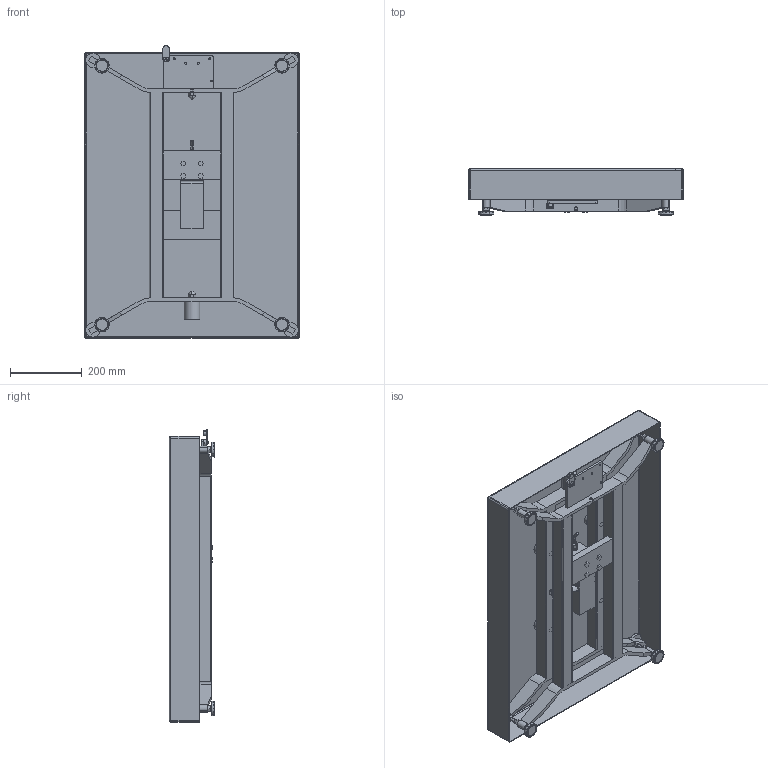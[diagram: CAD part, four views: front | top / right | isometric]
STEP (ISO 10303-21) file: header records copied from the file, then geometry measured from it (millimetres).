
FILE_DESCRIPTION((''),'2;1');
FILE_NAME('PLATFORM_PBA4XX-CC_NO_HYGIENIC','2022-03-18T09:44:32',('fu-34'),(''),'CREO PARAMETRIC BY PTC INC, 2018260','CREO PARAMETRIC BY PTC INC, 2018260','');
FILE_SCHEMA(('CONFIG_CONTROL_DESIGN','SHAPE_APPEARANCE_LAYERS_GROUPS'));
Products named in the file (1): PLATFORM_PBA4XX-CC_NO_HYGIENIC
Bounding box: 600 x 128.3 x 817.5 mm (x, y, z)
Volume: 4583127.5 mm3; surface area: 2629498.9 mm2
Topology: 14 solids, 137 shells, 2014 faces, 4850 edges, 3047 vertices
Faces by surface type: plane 860, cylinder 779, cone 311, torus 52, bspline 8, sphere 4
Entity records: 71335 total; most frequent: CARTESIAN_POINT 13078, DIRECTION 10159, ORIENTED_EDGE 9290, EDGE_CURVE 4787, AXIS2_PLACEMENT_3D 3899, VERTEX_POINT 3047, VECTOR 2361, LINE 2361
